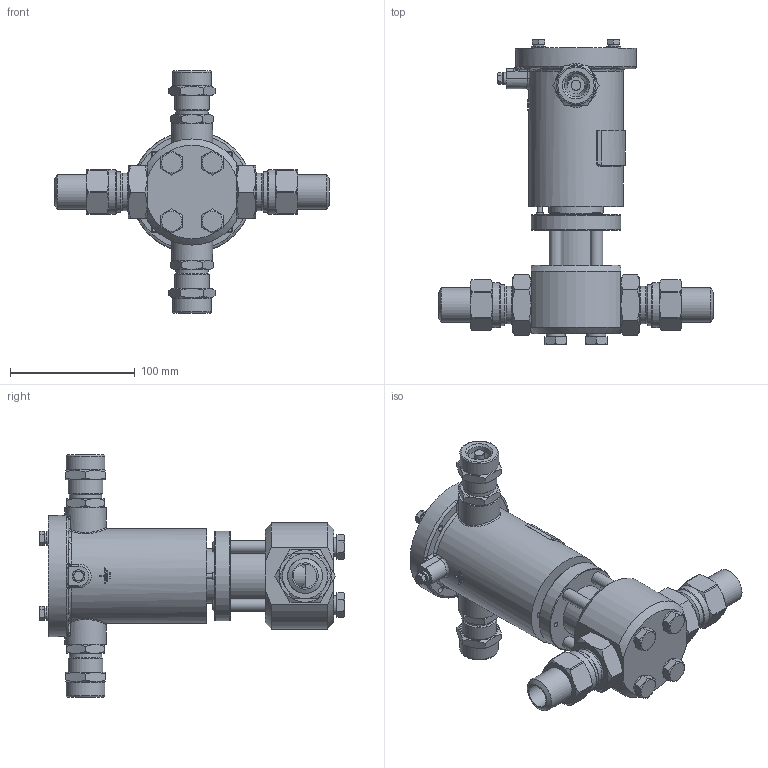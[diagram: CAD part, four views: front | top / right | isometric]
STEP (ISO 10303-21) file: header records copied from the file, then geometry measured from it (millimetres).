
FILE_DESCRIPTION(('STEP AP203'), '1');
FILE_NAME('ÑÅÍÑ-ÏÐ DN20PN250-G1-1.stp', '2018-10-23T11:30:41', ('Îðëîâ Å.Â.'), ('ÎÎÎ ÍÏÏ Ñåíñîð'), 'ASCON STEP Converter 1.3', 'Kompas 3D', '');
FILE_SCHEMA(('CONFIG_CONTROL_DESIGN','SUPPORT_RESOURCE_SCHEMA'));
Length unit declared in the file: millimetre
Products named in the file (1): 4
Bounding box: 219.72 x 245.1 x 194 mm (x, y, z)
Volume: 782377.8 mm3; surface area: 241893.3 mm2
Topology: 3 solids, 23 shells, 1953 faces, 5153 edges, 3350 vertices
Faces by surface type: cylinder 978, plane 708, cone 195, bspline 29, torus 25, extrusion 16, sphere 2
Full cylindrical faces by diameter (mm): 2.459 x4, 4 x8, 4.134 x1, 4.5 x2, 4.917 x4, 5 x3, 6 x9, 6.5 x6, 8 x4, 10 x10, 11 x4, 12 x4, 13 x2, 18.632 x2, 19 x2, 20 x6, 22 x2, 22.376 x2, 23.5 x2, 24 x2, 24.5 x2, 25 x2, 26 x6, 26.376 x2, 27.8 x2, 28 x4, 28.5 x1, 29 x2, 30 x5, 30.291 x4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
Entity records: 75242 total; most frequent: CARTESIAN_POINT 25694, DIRECTION 10738, ORIENTED_EDGE 10284, EDGE_CURVE 5142, AXIS2_PLACEMENT_3D 4144, VERTEX_POINT 3350, VECTOR 2450, LINE 2434
